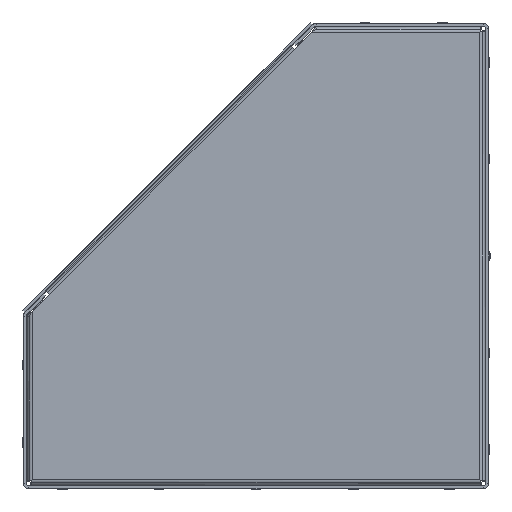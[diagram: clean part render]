
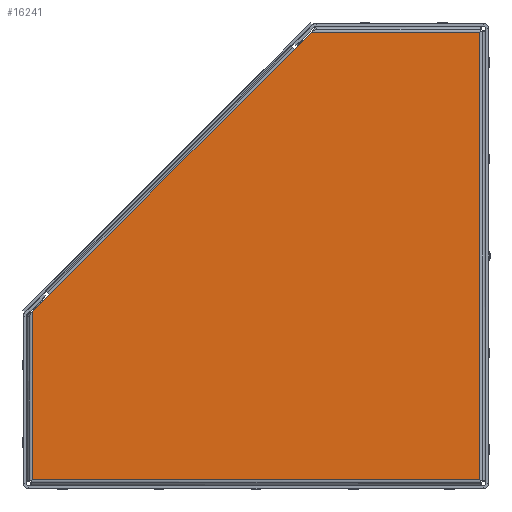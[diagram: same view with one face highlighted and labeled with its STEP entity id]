
A CAD part, left-side view. The second image highlights one B-rep face of the part: STEP entity #16241.
In plain terms, the highlighted planar face has unit normal (-1, 0, 0) as drawn and (1, 0, 0) by its records, which use the part's own axes.
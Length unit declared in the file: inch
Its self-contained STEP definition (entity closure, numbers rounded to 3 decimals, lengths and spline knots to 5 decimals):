
#224 = VECTOR ( 'NONE', #1119, 39.37008 ) ;
#1119 = DIRECTION ( 'NONE',  ( 0., -0.707, 0.707 ) ) ;
#1801 = FACE_OUTER_BOUND ( 'NONE', #11034, .T. ) ;
#2309 = ORIENTED_EDGE ( 'NONE', *, *, #11838, .T. ) ;
#2311 = EDGE_CURVE ( 'NONE', #6778, #3956, #3770, .T. ) ;
#2456 = DIRECTION ( 'NONE',  ( 1., 0., 0. ) ) ;
#2736 = CARTESIAN_POINT ( 'NONE',  ( 0., 11.10475, -6.76674 ) ) ;
#2919 = VECTOR ( 'NONE', #16610, 39.37008 ) ;
#2953 = VERTEX_POINT ( 'NONE', #15814 ) ;
#3029 = LINE ( 'NONE', #7267, #12834 ) ;
#3681 = CARTESIAN_POINT ( 'NONE',  ( 0., 11.552, -7.21399 ) ) ;
#3719 = VERTEX_POINT ( 'NONE', #5974 ) ;
#3770 = LINE ( 'NONE', #6356, #224 ) ;
#3836 = CARTESIAN_POINT ( 'NONE',  ( 0., 4.33801, 0. ) ) ;
#3888 = EDGE_CURVE ( 'NONE', #10388, #2953, #13433, .T. ) ;
#3956 = VERTEX_POINT ( 'NONE', #4947 ) ;
#4162 = AXIS2_PLACEMENT_3D ( 'NONE', #7785, #2456, #11814 ) ;
#4225 = EDGE_CURVE ( 'NONE', #8714, #6778, #4854, .T. ) ;
#4352 = VERTEX_POINT ( 'NONE', #7966 ) ;
#4568 = LINE ( 'NONE', #3836, #8133 ) ;
#4569 = CARTESIAN_POINT ( 'NONE',  ( 0., 11.552, -11.552 ) ) ;
#4854 = LINE ( 'NONE', #12973, #8403 ) ;
#4947 = CARTESIAN_POINT ( 'NONE',  ( 0., 4.33801, 0. ) ) ;
#4953 = ORIENTED_EDGE ( 'NONE', *, *, #3888, .T. ) ;
#5922 = DIRECTION ( 'NONE',  ( 0., 0., -1. ) ) ;
#5974 = CARTESIAN_POINT ( 'NONE',  ( 0., 11.552, -7.21399 ) ) ;
#6356 = CARTESIAN_POINT ( 'NONE',  ( 0., 11.552, -7.21399 ) ) ;
#6454 = LINE ( 'NONE', #4569, #2919 ) ;
#6461 = CARTESIAN_POINT ( 'NONE',  ( 0., 0., 0. ) ) ;
#6554 = EDGE_CURVE ( 'NONE', #3956, #10388, #4568, .T. ) ;
#6777 = ORIENTED_EDGE ( 'NONE', *, *, #6554, .T. ) ;
#6778 = VERTEX_POINT ( 'NONE', #9714 ) ;
#6901 = EDGE_CURVE ( 'NONE', #4352, #3719, #6454, .T. ) ;
#7065 = ORIENTED_EDGE ( 'NONE', *, *, #2311, .T. ) ;
#7267 = CARTESIAN_POINT ( 'NONE',  ( 0., 0., -11.552 ) ) ;
#7785 = CARTESIAN_POINT ( 'NONE',  ( 0., 0., 0. ) ) ;
#7966 = CARTESIAN_POINT ( 'NONE',  ( 0., 11.552, -11.552 ) ) ;
#8133 = VECTOR ( 'NONE', #15868, 39.37008 ) ;
#8403 = VECTOR ( 'NONE', #17025, 39.37008 ) ;
#8612 = DIRECTION ( 'NONE',  ( 0., 1., 0. ) ) ;
#8714 = VERTEX_POINT ( 'NONE', #2736 ) ;
#8877 = LINE ( 'NONE', #3681, #12429 ) ;
#9463 = VECTOR ( 'NONE', #5922, 39.37008 ) ;
#9714 = CARTESIAN_POINT ( 'NONE',  ( 0., 4.78526, -0.44725 ) ) ;
#10388 = VERTEX_POINT ( 'NONE', #6461 ) ;
#10476 = PLANE ( 'NONE',  #4162 ) ;
#11034 = EDGE_LOOP ( 'NONE', ( #6777, #4953, #11474, #16137, #2309, #15344, #7065 ) ) ;
#11474 = ORIENTED_EDGE ( 'NONE', *, *, #12264, .T. ) ;
#11814 = DIRECTION ( 'NONE',  ( 0., 0., -1. ) ) ;
#11838 = EDGE_CURVE ( 'NONE', #3719, #8714, #8877, .T. ) ;
#12264 = EDGE_CURVE ( 'NONE', #2953, #4352, #3029, .T. ) ;
#12429 = VECTOR ( 'NONE', #17053, 39.37008 ) ;
#12834 = VECTOR ( 'NONE', #8612, 39.37008 ) ;
#12973 = CARTESIAN_POINT ( 'NONE',  ( 0., 11.10475, -6.76674 ) ) ;
#13433 = LINE ( 'NONE', #13925, #9463 ) ;
#13925 = CARTESIAN_POINT ( 'NONE',  ( 0., 0., 0. ) ) ;
#15344 = ORIENTED_EDGE ( 'NONE', *, *, #4225, .T. ) ;
#15814 = CARTESIAN_POINT ( 'NONE',  ( 0., 0., -11.552 ) ) ;
#15868 = DIRECTION ( 'NONE',  ( 0., -1., 0. ) ) ;
#16137 = ORIENTED_EDGE ( 'NONE', *, *, #6901, .T. ) ;
#16241 = ADVANCED_FACE ( 'NONE', ( #1801 ), #10476, .T. ) ;
#16610 = DIRECTION ( 'NONE',  ( 0., 0., 1. ) ) ;
#17025 = DIRECTION ( 'NONE',  ( 0., -0.707, 0.707 ) ) ;
#17053 = DIRECTION ( 'NONE',  ( 0., -0.707, 0.707 ) ) ;
